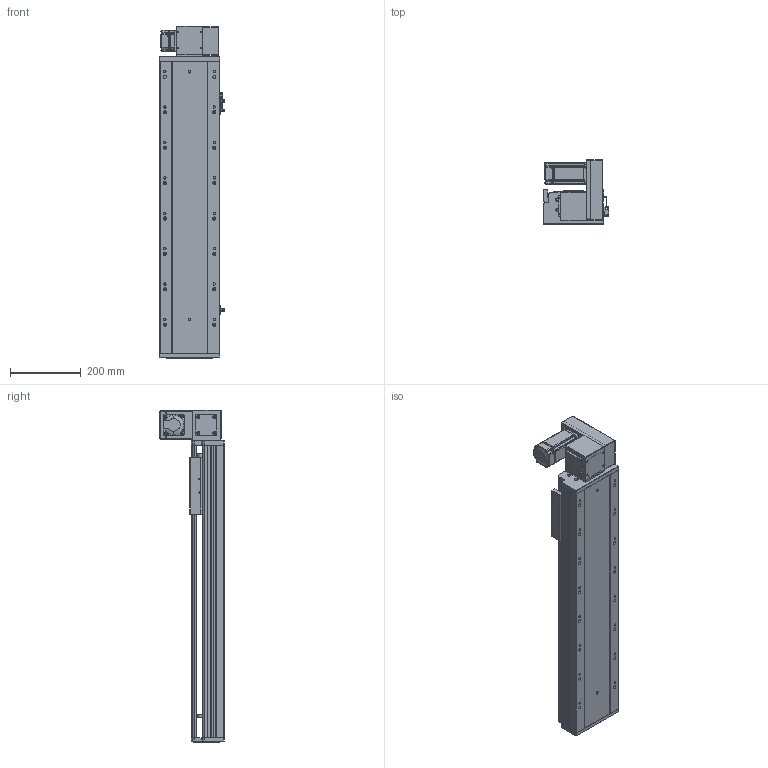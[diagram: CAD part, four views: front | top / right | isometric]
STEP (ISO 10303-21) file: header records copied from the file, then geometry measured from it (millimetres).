
FILE_DESCRIPTION (( 'STEP AP203' ), '1' );
FILE_NAME ('RY170-T-300-UR-P400W.SLDASM_550.step', '2021-03-01T09:27:07', ( '盈信电脑' ), ( '东莞市道滘镇水果街19号' ), 'SwSTEP 2.0', 'SolidWorks 2012', '' );
FILE_SCHEMA (( 'CONFIG_CONTROL_DESIGN' ));
Length unit declared in the file: millimetre
Products named in the file (18): 15; RY170-T-300-UR-P400W.SLDASM_550; RY170-T肮祭謫裔啣; RY170-T蹟翐M4; 滅袉蝶18-10; RY170-T肮祭湍揤踡輸2; RY170肮祭謫萇儂欶; RY120-T主同步轮轴承压盖; RY170-T肮祭湍揤踡輸1; RY170肮祭謫ヶ裔啣; RY170同步轮电机安装板(400W); RY170外置感应片(200共用）; RY170翋肮祭謫釱; RY170肮祭湍臏賑輸; RY170-T-300肮祭謫倰第裔啣-DR_550; 覜茼ん672; RY170綴裔啣; RY170-T-300肮祭謫倰第菁釱-DR_550
Assembly tree (22 placements, depth 2):
  RY170-T-300-UR-P400W.SLDASM_550
    RY170-T-300肮祭謫倰第菁釱-DR_550
    RY170肮祭湍臏賑輸
    RY170-T-300肮祭謫倰第裔啣-DR_550
    RY170綴裔啣
    覜茼ん672  x3
    RY170外置感应片(200共用）
    RY170肮祭謫ヶ裔啣
    RY170翋肮祭謫釱
    RY170同步轮电机安装板(400W)
    RY170肮祭謫萇儂欶
    RY170-T肮祭湍揤踡輸1  x2
    RY170-T肮祭湍揤踡輸2  x2
    RY120-T主同步轮轴承压盖
    RY170-T肮祭謫裔啣
    RY170-T蹟翐M4
    滅袉蝶18-10  x2
    15
Bounding box: 183.7 x 182 x 938 mm (x, y, z)
Volume: 5028245.8 mm3; surface area: 1682469.6 mm2
Topology: 22 solids, 22 shells, 2708 faces, 7542 edges, 4863 vertices
Faces by surface type: plane 1262, cylinder 1208, cone 208, bspline 30
Entity records: 81080 total; most frequent: CARTESIAN_POINT 18213, ORIENTED_EDGE 12848, DIRECTION 12560, EDGE_CURVE 6424, AXIS2_PLACEMENT_3D 4400, VERTEX_POINT 4219, LINE 3760, VECTOR 3760
